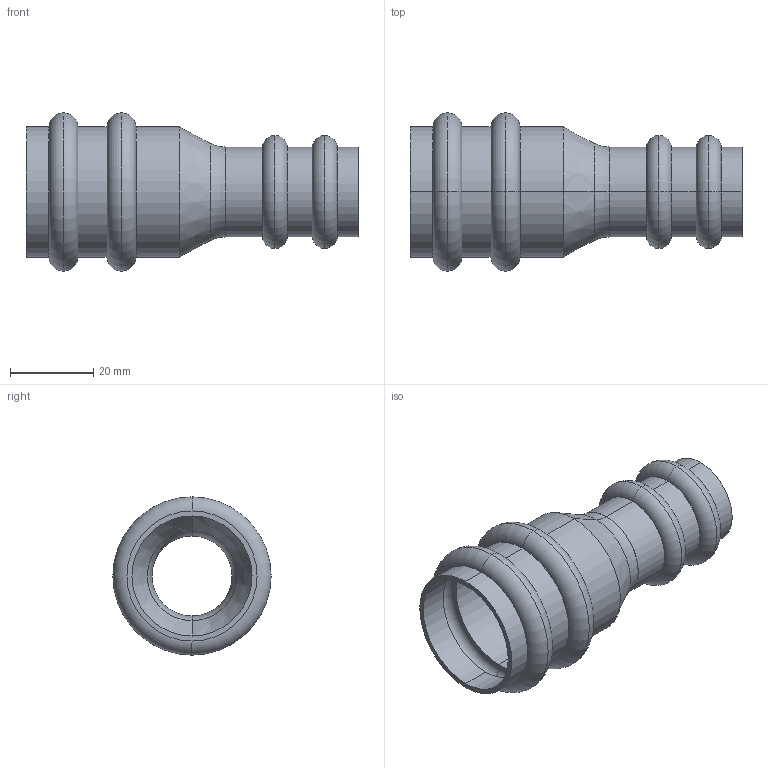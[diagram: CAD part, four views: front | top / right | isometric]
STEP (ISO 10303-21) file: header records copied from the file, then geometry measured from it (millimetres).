
FILE_DESCRIPTION(('starvars output'),'1');
FILE_NAME('cv20240422105352000011626.stp','10:53:53 2024/04/22',('Thomas Industrial Network Germany GmbH'),(' '),'Spatial InterOp 3D',' ',' ');
FILE_SCHEMA(('AUTOMOTIVE_DESIGN { 1 0 10303 214 3 1 1 }'));
Length unit declared in the file: millimetre
Products named in the file (1): 1
Bounding box: 79.92 x 38.1 x 38.1 mm (x, y, z)
Volume: 10013.5 mm3; surface area: 16700.7 mm2
Topology: 1 solids, 1 shells, 84 faces, 168 edges, 104 vertices
Faces by surface type: torus 36, cylinder 24, plane 20, cone 4
Entity records: 2940 total; most frequent: DIRECTION 478, CARTESIAN_POINT 357, ORIENTED_EDGE 336, AXIS2_PLACEMENT_3D 225, EDGE_CURVE 168, CIRCLE 140, EDGE_LOOP 104, VERTEX_POINT 104
